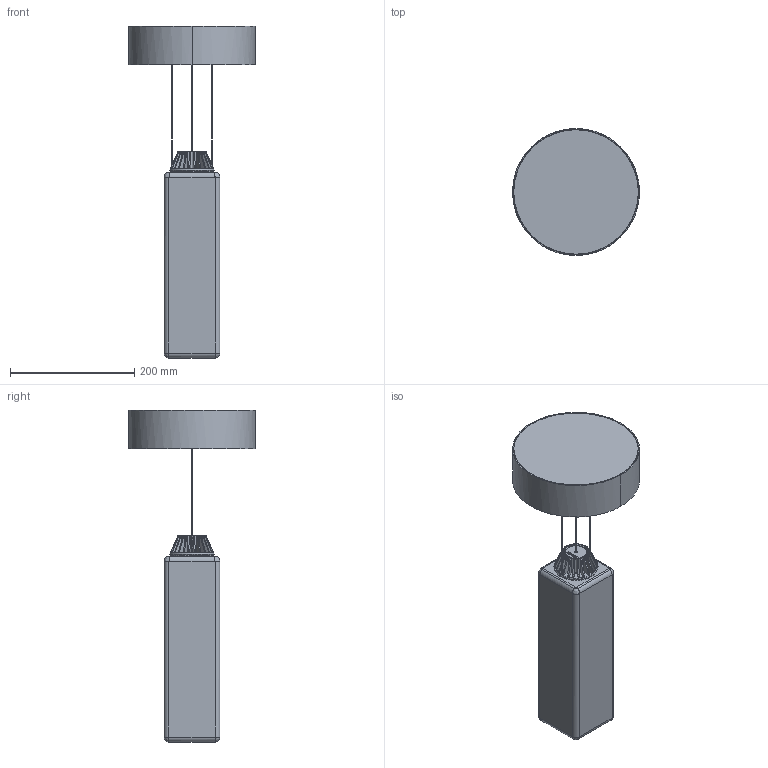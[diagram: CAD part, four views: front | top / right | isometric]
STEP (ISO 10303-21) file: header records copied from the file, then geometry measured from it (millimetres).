
FILE_DESCRIPTION(/* description */ (''),/* implementation_level */ '2;1');
FILE_NAME(/* name */ 'Yakisugi Small',/* time_stamp */ '2019-01-21T12:42:00+01:00',/* author */ (''),/* organization */ (''),/* preprocessor_version */ 'ST-DEVELOPER v15',/* originating_system */ '',/* authorisation */ '');
FILE_SCHEMA (('AUTOMOTIVE_DESIGN'));
Length unit declared in the file: millimetre
Products named in the file (1): Document
Bounding box: 203.85 x 204 x 533.8 mm (x, y, z)
Volume: 1133134.1 mm3; surface area: 449121.3 mm2
Topology: 10 solids, 10 shells, 328 faces, 844 edges, 541 vertices
Faces by surface type: bspline 328
Entity records: 25326 total; most frequent: CARTESIAN_POINT 14668, B_SPLINE_CURVE_WITH_KNOTS 2031, ORIENTED_EDGE 1678, PCURVE 1678, DEFINITIONAL_REPRESENTATION 1678, SURFACE_CURVE 839, EDGE_CURVE 839, VERTEX_POINT 539
